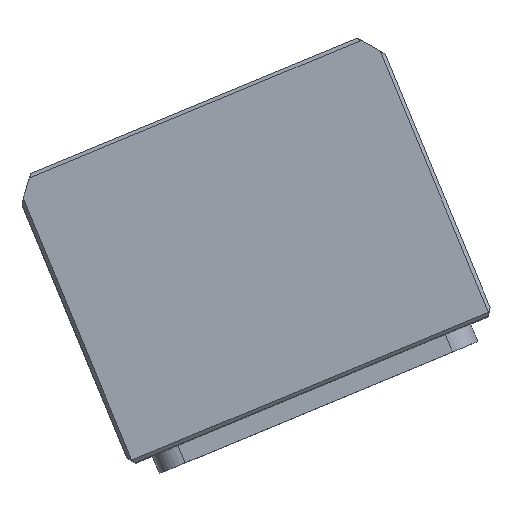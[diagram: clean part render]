
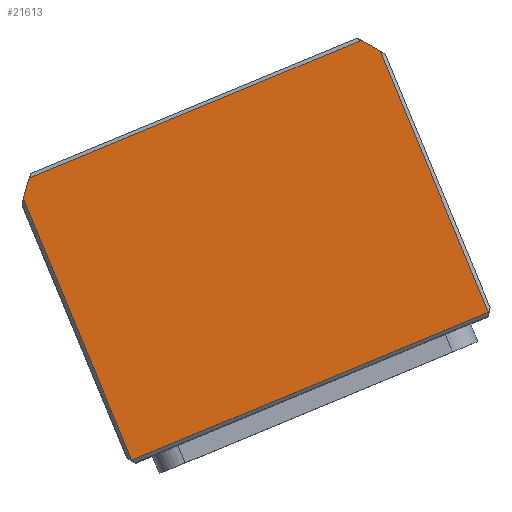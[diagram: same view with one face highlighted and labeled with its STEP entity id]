
A CAD part, top view. The second image highlights one B-rep face of the part: STEP entity #21613.
In plain terms, the highlighted planar face has unit normal (0, 0, 1) as drawn and (0, 0, -1) by its records, which use the part's own axes.
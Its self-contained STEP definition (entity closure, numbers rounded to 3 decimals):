
#470 = VERTEX_POINT ( 'NONE', #5667 ) ;
#641 = VECTOR ( 'NONE', #21308, 1000. ) ;
#1429 = AXIS2_PLACEMENT_3D ( 'NONE', #1726, #18254, #7265 ) ;
#1726 = CARTESIAN_POINT ( 'NONE',  ( 0., 0., 0. ) ) ;
#3189 = VECTOR ( 'NONE', #19389, 1000. ) ;
#3572 = PLANE ( 'NONE',  #1429 ) ;
#3795 = FACE_OUTER_BOUND ( 'NONE', #11640, .T. ) ;
#4482 = ORIENTED_EDGE ( 'NONE', *, *, #7564, .F. ) ;
#4932 = AXIS2_PLACEMENT_3D ( 'NONE', #17904, #6926, #19750 ) ;
#5520 = LINE ( 'NONE', #15801, #641 ) ;
#5667 = CARTESIAN_POINT ( 'NONE',  ( 56., -43.5, 0. ) ) ;
#6364 = VERTEX_POINT ( 'NONE', #17269 ) ;
#6638 = EDGE_CURVE ( 'NONE', #13312, #470, #5520, .T. ) ;
#6926 = DIRECTION ( 'NONE',  ( 0., 0., 1. ) ) ;
#7000 = CARTESIAN_POINT ( 'NONE',  ( 0., -2.5, 0. ) ) ;
#7238 = LINE ( 'NONE', #15631, #21268 ) ;
#7265 = DIRECTION ( 'NONE',  ( 1., 0., 0. ) ) ;
#7564 = EDGE_CURVE ( 'NONE', #13312, #9378, #16102, .T. ) ;
#7638 = EDGE_CURVE ( 'NONE', #6364, #15343, #20419, .T. ) ;
#7932 = LINE ( 'NONE', #8395, #3189 ) ;
#8395 = CARTESIAN_POINT ( 'NONE',  ( 0., -43.5, 0. ) ) ;
#8467 = ORIENTED_EDGE ( 'NONE', *, *, #7638, .F. ) ;
#8828 = DIRECTION ( 'NONE',  ( 1., 0., 0. ) ) ;
#9158 = EDGE_CURVE ( 'NONE', #6364, #9378, #7238, .T. ) ;
#9378 = VERTEX_POINT ( 'NONE', #14328 ) ;
#9435 = DIRECTION ( 'NONE',  ( 0., 1., 0. ) ) ;
#9759 = EDGE_CURVE ( 'NONE', #19702, #15343, #18433, .T. ) ;
#10212 = DIRECTION ( 'NONE',  ( 1., 0., 0. ) ) ;
#10320 = CARTESIAN_POINT ( 'NONE',  ( 56., 38.661, 0. ) ) ;
#10538 = CARTESIAN_POINT ( 'NONE',  ( -56., 38.661, 0. ) ) ;
#11640 = EDGE_LOOP ( 'NONE', ( #4482, #14207, #20242, #12189, #8467, #14510 ) ) ;
#12189 = ORIENTED_EDGE ( 'NONE', *, *, #9759, .T. ) ;
#12300 = AXIS2_PLACEMENT_3D ( 'NONE', #7000, #19824, #8828 ) ;
#12379 = VECTOR ( 'NONE', #9435, 1000. ) ;
#13312 = VERTEX_POINT ( 'NONE', #10320 ) ;
#14207 = ORIENTED_EDGE ( 'NONE', *, *, #6638, .T. ) ;
#14328 = CARTESIAN_POINT ( 'NONE',  ( 52.098, 43.5, 0. ) ) ;
#14510 = ORIENTED_EDGE ( 'NONE', *, *, #9158, .T. ) ;
#15343 = VERTEX_POINT ( 'NONE', #10538 ) ;
#15631 = CARTESIAN_POINT ( 'NONE',  ( 0., 43.5, 0. ) ) ;
#15801 = CARTESIAN_POINT ( 'NONE',  ( 56., 0., 0. ) ) ;
#16102 = CIRCLE ( 'NONE', #4932, 69.5 ) ;
#16844 = EDGE_CURVE ( 'NONE', #470, #19702, #7932, .T. ) ;
#17269 = CARTESIAN_POINT ( 'NONE',  ( -52.098, 43.5, 0. ) ) ;
#17904 = CARTESIAN_POINT ( 'NONE',  ( 0., -2.5, 0. ) ) ;
#18254 = DIRECTION ( 'NONE',  ( 0., 0., 1. ) ) ;
#18433 = LINE ( 'NONE', #18601, #12379 ) ;
#18601 = CARTESIAN_POINT ( 'NONE',  ( -56., 0., 0. ) ) ;
#19389 = DIRECTION ( 'NONE',  ( -1., 0., 0. ) ) ;
#19702 = VERTEX_POINT ( 'NONE', #21601 ) ;
#19750 = DIRECTION ( 'NONE',  ( 1., 0., 0. ) ) ;
#19824 = DIRECTION ( 'NONE',  ( 0., 0., 1. ) ) ;
#20242 = ORIENTED_EDGE ( 'NONE', *, *, #16844, .T. ) ;
#20419 = CIRCLE ( 'NONE', #12300, 69.5 ) ;
#21268 = VECTOR ( 'NONE', #10212, 1000. ) ;
#21308 = DIRECTION ( 'NONE',  ( 0., -1., 0. ) ) ;
#21601 = CARTESIAN_POINT ( 'NONE',  ( -56., -43.5, 0. ) ) ;
#21613 = ADVANCED_FACE ( 'NONE', ( #3795 ), #3572, .F. ) ;
